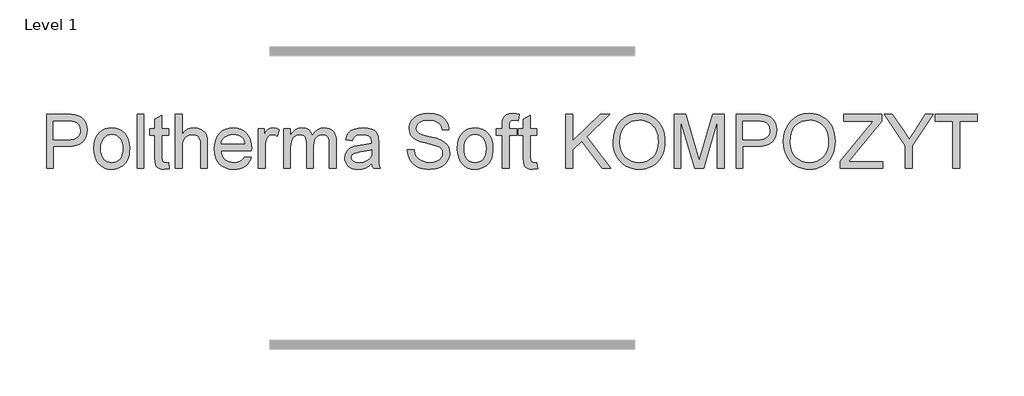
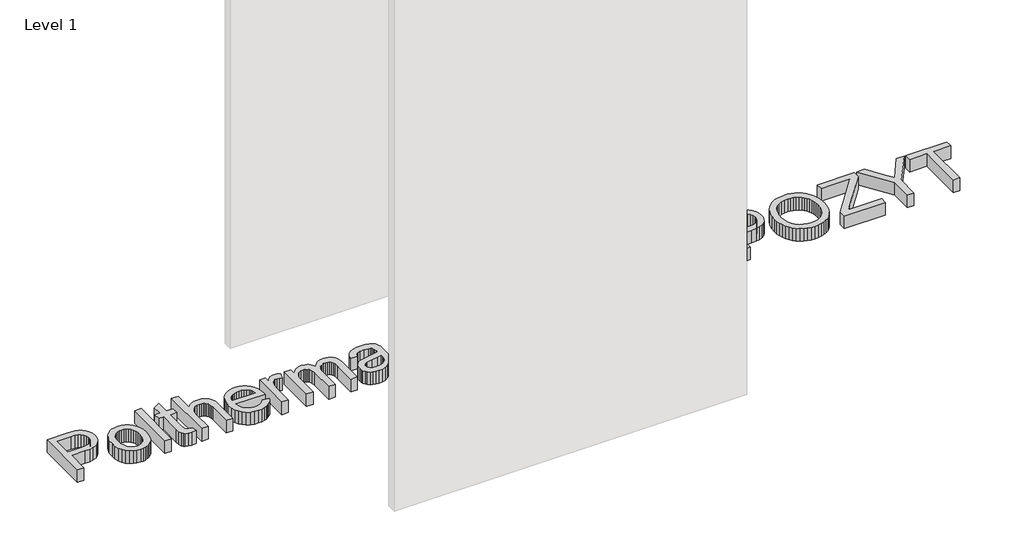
# One storey, part 7 of 27: 1 proxy.
"""IFC4 building model written with IfcOpenShell, lengths in millimetres."""

from ifc_helpers import new_model, si_unit, origin, origin_with_axes, place, context, project, spatial, polyline, outline, extrude, element, save

model = new_model("IFC4")

# Units and contexts
model_context = context("Model", 3, world=origin())
ifc_project = project(units=[si_unit("LENGTHUNIT", "METRE", prefix="MILLI")], contexts=[model_context])

# Site, building, storey
site = spatial("IfcSite", under=ifc_project)
building = spatial("IfcBuilding", under=site)
storey = spatial("IfcBuildingStorey", under=building, Name="Level 1", Elevation=0.0)

# Proxy
placement = place(None, origin())
element("IfcBuildingElementProxy", 1, Name="600mm Arial", ObjectType="600mm Arial", at=placement, inside=storey, context=model_context, shape_type="SweptSolid", body=[
    extrude(outline(polyline([(-14665.528887, -34476.1723864), (-14665.528887, -33885.4031556), (-14446.5865793, -33885.4031556), (-14395.6010024, -33886.8094056), (-14358.3173485, -33891.0281556), (-14318.9603774, -33901.5389729), (-14286.5625408, -33918.6483479), (-14260.4748004, -33943.131521), (-14240.0481177, -33975.7637325), (-14226.8510024, -34014.255319), (-14222.4519639, -34056.3166171), (-14225.4222163, -34092.5816412), (-14234.3329735, -34125.944021), (-14249.1842355, -34156.4037565), (-14269.9760024, -34183.9608479), (-14298.520173, -34206.803396), (-14336.6286466, -34223.1195017), (-14384.301423, -34232.9091652), (-14441.5385024, -34236.1723864), (-14591.6827331, -34236.1723864), (-14591.6827331, -34476.1723864), (-14665.528887, -34476.1723864)]), holes=[polyline([(-14591.6827331, -34162.3262325), (-14437.2115793, -34162.3262325), (-14401.6947524, -34160.631521), (-14371.7308101, -34155.5473864), (-14347.3197524, -34147.0738287), (-14328.4615793, -34135.2108479), (-14314.3900649, -34120.2739489), (-14304.3389831, -34102.5786364), (-14298.3083341, -34082.1249104), (-14296.2981177, -34058.912771), (-14301.0397043, -34025.739694), (-14315.2644639, -33997.7589248), (-14337.2055697, -33976.7012325), (-14365.0961947, -33964.2973864), (-14393.5817716, -33960.5113287), (-14438.9423485, -33959.2493094), (-14591.6827331, -33959.2493094), (-14591.6827331, -34162.3262325)])]), origin_with_axes(), (0.0, 0.0, 1.0), 150.0),
    extrude(outline(polyline([(-14148.6058101, -34259.2493094), (-14144.6124206, -34203.0624104), (-14132.6322524, -34154.645944), (-14112.6653052, -34113.9999104), (-14084.7115793, -34081.1243094), (-14056.5685504, -34060.1116892), (-14025.5048485, -34045.1026748), (-13991.5204735, -34036.0972662), (-13954.6154254, -34033.0954633), (-13913.8747403, -34036.7508118), (-13877.0373004, -34047.7168575), (-13844.1031057, -34065.9936003), (-13815.0721562, -34091.5810402), (-13791.3777452, -34123.6137926), (-13774.4531658, -34161.2264729), (-13764.2984182, -34204.4190811), (-13760.9135024, -34253.1916171), (-13762.4098966, -34292.7198623), (-13766.8990793, -34327.7949825), (-13774.3810504, -34358.4169777), (-13784.8558101, -34384.5858479), (-13798.192649, -34407.1895138), (-13814.2608581, -34427.115896), (-13833.0604375, -34444.3649945), (-13854.591387, -34458.9368094), (-13878.0153653, -34470.5158359), (-13902.4940312, -34478.786569), (-13928.0273846, -34483.7490089), (-13954.6154254, -34485.4031556), (-13995.9510625, -34481.7613287), (-14033.1310504, -34470.8358479), (-14066.1553894, -34452.6267133), (-14095.0240793, -34427.1339248), (-14118.4660865, -34394.7901748), (-14135.2103774, -34356.0281556), (-14145.2569519, -34310.8478671), (-14148.6058101, -34259.2493094)]), holes=[polyline([(-14074.7596562, -34259.1050787), (-14072.6232379, -34294.9238888), (-14066.2139831, -34325.9380114), (-14055.5318918, -34352.1474464), (-14040.5769639, -34373.552194), (-14022.3858581, -34390.1792974), (-14001.9952331, -34402.0557998), (-13979.4050889, -34409.1817013), (-13954.6154254, -34411.5570017), (-13929.9519639, -34409.1681796), (-13907.4519639, -34402.0017133), (-13887.1154254, -34390.0576027), (-13868.9423485, -34373.3358479), (-13853.9874206, -34351.7192614), (-13843.3053293, -34325.0906556), (-13836.8960745, -34293.4500306), (-13834.7596562, -34256.7973864), (-13836.9095961, -34222.1143936), (-13843.3594158, -34191.911569), (-13854.1091153, -34166.1889128), (-13869.1586947, -34144.9464248), (-13887.3993798, -34128.3193214), (-13907.7223966, -34116.442819), (-13930.1277452, -34109.3169176), (-13954.6154254, -34106.9416171), (-13979.4050889, -34109.3079032), (-14001.9952331, -34116.4067614), (-14022.3858581, -34128.2381916), (-14040.5769639, -34144.802194), (-14055.5318918, -34166.1438407), (-14066.2139831, -34192.3082037), (-14072.6232379, -34223.295283), (-14074.7596562, -34259.1050787)])]), origin_with_axes(), (0.0, 0.0, 1.0), 150.0),
    extrude(outline(polyline([(-13677.8365793, -34476.1723864), (-13677.8365793, -33885.4031556), (-13603.9904254, -33885.4031556), (-13603.9904254, -34476.1723864), (-13677.8365793, -34476.1723864)])), origin_with_axes(), (0.0, 0.0, 1.0), 150.0),
    extrude(outline(polyline([(-13336.2981177, -34414.5858479), (-13327.0673485, -34478.3358479), (-13382.3077331, -34485.4031556), (-13417.7524447, -34482.3382517), (-13444.1827331, -34473.1435402), (-13462.8606177, -34458.9728671), (-13475.0481177, -34440.9800787), (-13481.7548485, -34410.0786364), (-13483.9904254, -34357.1820017), (-13483.9904254, -34116.1723864), (-13539.3750408, -34116.1723864), (-13539.3750408, -34042.3262325), (-13483.9904254, -34042.3262325), (-13483.9904254, -33936.8935402), (-13410.1442716, -33893.4800787), (-13410.1442716, -34042.3262325), (-13336.2981177, -34042.3262325), (-13336.2981177, -34116.1723864), (-13410.1442716, -34116.1723864), (-13410.1442716, -34355.0185402), (-13406.2500408, -34393.0954633), (-13393.6298485, -34406.5810402), (-13382.9748004, -34410.3130114), (-13368.4615793, -34411.5570017), (-13336.2981177, -34414.5858479)])), origin_with_axes(), (0.0, 0.0, 1.0), 150.0),
    extrude(outline(polyline([(-13262.4519639, -34476.1723864), (-13262.4519639, -33885.4031556), (-13188.6058101, -33885.4031556), (-13188.6058101, -34102.614694), (-13161.481411, -34072.2000306), (-13131.0216754, -34050.475271), (-13097.2266033, -34037.4404152), (-13060.0961947, -34033.0954633), (-13015.4928293, -34037.8370498), (-12977.1635024, -34052.0618094), (-12946.9832139, -34074.6519537), (-12926.8269639, -34104.489694), (-12915.4687908, -34145.4872902), (-12911.6827331, -34201.5570017), (-12911.6827331, -34476.1723864), (-12985.528887, -34476.1723864), (-12985.528887, -34209.2012325), (-12986.9982379, -34184.2673383), (-12991.4062908, -34162.975271), (-12998.7530456, -34145.3250306), (-13009.0385024, -34131.3166171), (-13022.0192716, -34120.6525546), (-13037.4519639, -34113.0353671), (-13055.3365793, -34108.4650546), (-13075.6731177, -34106.9416171), (-13106.8810504, -34111.052194), (-13136.1779254, -34123.3839248), (-13160.4447524, -34142.7469056), (-13176.5625408, -34167.9512325), (-13185.5949927, -34201.4488287), (-13188.6058101, -34245.6916171), (-13188.6058101, -34476.1723864), (-13262.4519639, -34476.1723864)])), origin_with_axes(), (0.0, 0.0, 1.0), 150.0),
    extrude(outline(polyline([(-12506.3942716, -34346.9416171), (-12433.9904254, -34356.1723864), (-12445.0916875, -34385.1717854), (-12460.0781658, -34410.7276748), (-12478.9498605, -34432.8400546), (-12501.7067716, -34451.5089248), (-12528.114524, -34466.3376508), (-12557.9387427, -34476.9295979), (-12591.1794278, -34483.2847662), (-12627.8365793, -34485.4031556), (-12673.6568918, -34481.747807), (-12714.4832139, -34470.7817614), (-12750.3155456, -34452.5050186), (-12781.153887, -34426.9175787), (-12805.9525649, -34394.7315811), (-12823.6659062, -34356.6591652), (-12834.293911, -34312.7003311), (-12837.8365793, -34262.8550787), (-12834.2578533, -34211.3196219), (-12823.5216754, -34165.895944), (-12805.6280456, -34126.584045), (-12780.5769639, -34093.3839248), (-12749.8197524, -34067.0077229), (-12714.8077331, -34048.1675787), (-12675.5409062, -34036.8634921), (-12632.0192716, -34033.0954633), (-12589.8993798, -34036.8544777), (-12551.8089351, -34048.131521), (-12517.7479375, -34066.9265931), (-12487.716387, -34093.239694), (-12463.2016634, -34126.3676989), (-12445.6911466, -34165.6074825), (-12435.1848365, -34210.959045), (-12431.6827331, -34262.4223864), (-12432.1154254, -34282.3262325), (-12763.9904254, -34282.3262325), (-12759.7130817, -34311.7943815), (-12751.2079735, -34337.6026748), (-12738.4751009, -34359.7511123), (-12721.5144639, -34378.239694), (-12701.2635625, -34392.8160162), (-12678.6598966, -34403.2276748), (-12653.7034663, -34409.47467), (-12626.3942716, -34411.5570017), (-12587.091387, -34407.6988287), (-12553.9904254, -34396.1243094), (-12527.091387, -34376.1122902), (-12506.3942716, -34346.9416171)]), holes=[polyline([(-12763.9904254, -34208.4800787), (-12505.528887, -34208.4800787), (-12515.5168677, -34169.4656556), (-12524.1076129, -34154.1231075), (-12535.0961947, -34141.5570017), (-12555.2344158, -34126.412771), (-12578.1490793, -34115.5954633), (-12603.8401851, -34109.1050787), (-12632.3077331, -34106.9416171), (-12658.2737788, -34108.6678791), (-12682.0853774, -34113.8466652), (-12703.7425288, -34122.4779753), (-12723.2452331, -34134.5618094), (-12739.6109182, -34149.5392734), (-12751.857012, -34166.8514729), (-12759.9835144, -34186.498408), (-12763.9904254, -34208.4800787)])]), origin_with_axes(), (0.0, 0.0, 1.0), 150.0),
    extrude(outline(polyline([(-12357.8365793, -34476.1723864), (-12357.8365793, -34042.3262325), (-12293.2211947, -34042.3262325), (-12293.2211947, -34106.5089248), (-12269.3510024, -34069.2973864), (-12247.3558101, -34047.3743094), (-12225.2885024, -34036.6651748), (-12201.2019639, -34033.0954633), (-12164.4231177, -34038.7925787), (-12127.0673485, -34055.8839248), (-12151.7308101, -34122.0858479), (-12177.6923485, -34110.7276748), (-12203.653887, -34106.9416171), (-12225.7031658, -34110.583444), (-12245.4086947, -34121.5089248), (-12261.3281658, -34138.8887325), (-12272.0192716, -34161.8935402), (-12280.997637, -34203.1435402), (-12283.9904254, -34248.1435402), (-12283.9904254, -34476.1723864), (-12357.8365793, -34476.1723864)])), origin_with_axes(), (0.0, 0.0, 1.0), 150.0),
    extrude(outline(polyline([(-12080.9135024, -34476.1723864), (-12080.9135024, -34042.3262325), (-12007.0673485, -34042.3262325), (-12007.0673485, -34113.7204633), (-11984.8558101, -34080.9259921), (-11956.2981177, -34055.2348864), (-11922.3678293, -34038.630319), (-11884.0385024, -34033.0954633), (-11842.9687908, -34038.7384921), (-11825.4898245, -34045.7922782), (-11810.0481177, -34055.6675787), (-11785.4567716, -34082.7649344), (-11769.3750408, -34118.912771), (-11742.4579735, -34081.3676989), (-11711.7548485, -34054.5497902), (-11677.2656658, -34038.459045), (-11638.9904254, -34033.0954633), (-11609.427625, -34035.326533), (-11583.4796081, -34042.0197421), (-11561.146375, -34053.1750907), (-11542.4279254, -34068.7925787), (-11527.63075, -34089.0524945), (-11517.0613389, -34114.1351267), (-11510.7196923, -34144.0404753), (-11508.6058101, -34178.7685402), (-11508.6058101, -34476.1723864), (-11582.4519639, -34476.1723864), (-11582.4519639, -34210.4993094), (-11584.1647043, -34173.6663767), (-11589.3029254, -34148.8406556), (-11598.9303293, -34131.8394537), (-11614.1106177, -34118.4800787), (-11633.6358581, -34109.8262325), (-11656.2981177, -34106.9416171), (-11677.2251009, -34108.7895739), (-11696.3041274, -34114.333444), (-11713.5351971, -34123.5732277), (-11728.9183101, -34136.5089248), (-11741.5700528, -34153.5191412), (-11750.607012, -34174.9824825), (-11756.0291875, -34200.8989489), (-11757.8365793, -34231.2685402), (-11757.8365793, -34476.1723864), (-11831.6827331, -34476.1723864), (-11831.6827331, -34202.2781556), (-11835.9555697, -34160.5233479), (-11848.7740793, -34130.739694), (-11858.6854375, -34120.3280354), (-11871.3281658, -34112.8911364), (-11886.7022644, -34108.4289969), (-11904.8077331, -34106.9416171), (-11933.2572524, -34110.9079633), (-11959.4711947, -34122.8070017), (-11981.1058101, -34142.350271), (-11995.8173485, -34169.2493094), (-12004.2548485, -34206.569021), (-12007.0673485, -34257.3743094), (-12007.0673485, -34476.1723864), (-12080.9135024, -34476.1723864)])), origin_with_axes(), (0.0, 0.0, 1.0), 150.0),
    extrude(outline(polyline([(-11120.9135024, -34420.787771), (-11156.1959543, -34451.0401748), (-11192.5240793, -34470.8358479), (-11230.7272043, -34481.7613287), (-11271.6346562, -34485.4031556), (-11304.5147644, -34483.2126508), (-11333.3473966, -34476.6411364), (-11358.1325528, -34465.6886123), (-11378.8702331, -34450.3550787), (-11395.2449327, -34431.6140931), (-11406.9411466, -34410.4392133), (-11413.958875, -34386.8304392), (-11416.2981177, -34360.787771), (-11412.7644639, -34330.1747902), (-11402.1635024, -34302.3743094), (-11385.8113389, -34278.5762325), (-11365.0240793, -34259.9704633), (-11340.5949927, -34245.9079633), (-11313.3173485, -34235.739694), (-11249.4231177, -34224.6339248), (-11173.9183101, -34212.9512325), (-11121.3461947, -34199.2493094), (-11120.9135024, -34182.8070017), (-11125.997637, -34149.850271), (-11132.3528052, -34137.6447421), (-11141.2500408, -34128.287771), (-11156.6286466, -34118.9488287), (-11175.3606177, -34112.2781556), (-11222.8846562, -34106.9416171), (-11266.8750408, -34110.4932998), (-11297.5961947, -34121.1483479), (-11318.5457139, -34140.8538767), (-11333.2211947, -34171.5570017), (-11407.0673485, -34162.3262325), (-11394.2488389, -34121.9416171), (-11375.1202331, -34090.2108479), (-11347.8966754, -34065.944021), (-11310.7933101, -34047.9512325), (-11265.4147043, -34036.8094056), (-11213.3654254, -34033.0954633), (-11163.4435504, -34036.3767133), (-11123.8702331, -34046.2204633), (-11094.0324927, -34061.022146), (-11073.3173485, -34079.177194), (-11059.5793677, -34101.6231075), (-11050.6731177, -34129.2973864), (-11047.0673485, -34193.912771), (-11047.0673485, -34285.787771), (-11043.3173485, -34414.0810402), (-11037.7644639, -34445.7937806), (-11028.6058101, -34476.1723864), (-11102.4519639, -34476.1723864), (-11114.278887, -34450.4993094), (-11120.9135024, -34420.787771)]), holes=[polyline([(-11120.9135024, -34273.0954633), (-11170.528887, -34285.3911364), (-11240.0481177, -34295.739694), (-11303.5817716, -34307.7108479), (-11320.1142235, -34315.895944), (-11332.3558101, -34327.1820017), (-11339.9279254, -34340.7036364), (-11342.4519639, -34355.5954633), (-11336.9531658, -34377.5545979), (-11320.4567716, -34395.5473864), (-11293.3233581, -34407.5545979), (-11255.9135024, -34411.5570017), (-11216.2500408, -34407.1399344), (-11181.2019639, -34393.8887325), (-11152.7885024, -34374.3634921), (-11133.028887, -34351.1243094), (-11124.2668677, -34327.1820017), (-11121.3461947, -34294.0089248), (-11120.9135024, -34273.0954633)])]), origin_with_axes(), (0.0, 0.0, 1.0), 150.0),
    extrude(outline(polyline([(-10733.2211947, -34273.0954633), (-10659.3750408, -34273.0954633), (-10650.9014831, -34314.0750306), (-10635.5769639, -34347.0137325), (-10611.6707139, -34373.1555594), (-10577.4519639, -34393.7445017), (-10535.6250408, -34407.1038767), (-10488.8942716, -34411.5570017), (-10447.7524447, -34408.1856075), (-10411.7308101, -34398.0714248), (-10382.5421081, -34382.0618094), (-10361.8990793, -34361.0041171), (-10349.6214351, -34336.8274344), (-10345.528887, -34311.4608479), (-10348.5937908, -34286.7432998), (-10357.7885024, -34265.3791171), (-10376.466387, -34247.1519537), (-10407.9808101, -34231.8454633), (-10515.5048485, -34203.6483479), (-10586.0877812, -34184.9884921), (-10631.2500408, -34167.2300787), (-10668.0108581, -34142.3863287), (-10694.0625408, -34112.2781556), (-10709.5853774, -34077.5545979), (-10714.7596562, -34038.864694), (-10713.1595961, -34016.8740089), (-10708.3594158, -33995.6134921), (-10700.3591153, -33975.0831436), (-10689.1586947, -33955.2829633), (-10674.8843557, -33937.0197421), (-10657.6623004, -33921.100271), (-10637.4925288, -33907.5245498), (-10614.3750408, -33896.2925787), (-10562.4159062, -33881.2024344), (-10504.903887, -33876.1723864), (-10442.5961947, -33881.4368094), (-10388.0769639, -33897.2300787), (-10364.2248004, -33908.9939008), (-10343.2933101, -33923.2276748), (-10325.2824927, -33939.9314008), (-10310.1923485, -33959.1050787), (-10298.1400649, -33980.1898142), (-10289.2428293, -34002.6267133), (-10283.5006418, -34026.4157758), (-10280.9135024, -34051.5570017), (-10354.7596562, -34051.5570017), (-10359.6995601, -34027.9932998), (-10368.3173485, -34007.4945017), (-10380.6130216, -33990.0606075), (-10396.5865793, -33975.6916171), (-10416.5354976, -33964.459646), (-10440.7572524, -33956.4368094), (-10469.2518437, -33951.6231075), (-10502.0192716, -33950.0185402), (-10535.8323726, -33951.6050787), (-10564.7235985, -33956.364694), (-10588.6929495, -33964.2973864), (-10607.7404254, -33975.4031556), (-10622.2536466, -33988.7535162), (-10632.6202331, -34003.4199825), (-10638.8401851, -34019.4025546), (-10640.9135024, -34036.7012325), (-10635.0360985, -34065.0786364), (-10617.403887, -34087.9031556), (-10601.2139831, -34098.053396), (-10575.7211947, -34108.3118094), (-10496.8269639, -34129.1531556), (-10415.4086947, -34148.9488287), (-10366.153887, -34166.2204633), (-10324.0565312, -34193.0113287), (-10307.7809903, -34208.7595258), (-10294.6875408, -34226.0762325), (-10284.6229375, -34244.8713046), (-10277.4339351, -34265.0545979), (-10271.6827331, -34309.5858479), (-10273.3368798, -34332.685307), (-10278.2993197, -34355.1086844), (-10286.5700528, -34376.8559801), (-10298.1490793, -34397.927194), (-10312.8335745, -34417.506521), (-10330.4207139, -34434.7781556), (-10350.9104976, -34449.7420979), (-10374.3029254, -34462.3983479), (-10399.9174086, -34472.4629513), (-10427.0733581, -34479.6519537), (-10486.0096562, -34485.4031556), (-10523.7845961, -34483.8526748), (-10558.3594158, -34479.2012325), (-10589.7341153, -34471.4488287), (-10617.9086947, -34460.5954633), (-10643.0544278, -34446.6231075), (-10665.3425889, -34429.5137325), (-10684.7731778, -34409.2673383), (-10701.3461947, -34385.8839248), (-10714.6965552, -34360.1207037), (-10724.4591754, -34332.7348864), (-10730.6340552, -34303.7264729), (-10733.2211947, -34273.0954633)])), origin_with_axes(), (0.0, 0.0, 1.0), 150.0),
    extrude(outline(polyline([(-10188.6058101, -34259.2493094), (-10184.6124206, -34203.0624104), (-10172.6322524, -34154.645944), (-10152.6653052, -34113.9999104), (-10124.7115793, -34081.1243094), (-10096.5685504, -34060.1116892), (-10065.5048485, -34045.1026748), (-10031.5204735, -34036.0972662), (-9994.6154254, -34033.0954633), (-9953.8747403, -34036.7508118), (-9917.0373004, -34047.7168575), (-9884.1031057, -34065.9936003), (-9855.0721562, -34091.5810402), (-9831.3777452, -34123.6137926), (-9814.4531658, -34161.2264729), (-9804.2984182, -34204.4190811), (-9800.9135024, -34253.1916171), (-9802.4098966, -34292.7198623), (-9806.8990793, -34327.7949825), (-9814.3810504, -34358.4169777), (-9824.8558101, -34384.5858479), (-9838.192649, -34407.1895138), (-9854.2608581, -34427.115896), (-9873.0604375, -34444.3649945), (-9894.591387, -34458.9368094), (-9918.0153653, -34470.5158359), (-9942.4940312, -34478.786569), (-9968.0273846, -34483.7490089), (-9994.6154254, -34485.4031556), (-10035.9510625, -34481.7613287), (-10073.1310504, -34470.8358479), (-10106.1553894, -34452.6267133), (-10135.0240793, -34427.1339248), (-10158.4660865, -34394.7901748), (-10175.2103774, -34356.0281556), (-10185.2569519, -34310.8478671), (-10188.6058101, -34259.2493094)]), holes=[polyline([(-10114.7596562, -34259.1050787), (-10112.6232379, -34294.9238888), (-10106.2139831, -34325.9380114), (-10095.5318918, -34352.1474464), (-10080.5769639, -34373.552194), (-10062.3858581, -34390.1792974), (-10041.9952331, -34402.0557998), (-10019.4050889, -34409.1817013), (-9994.6154254, -34411.5570017), (-9969.9519639, -34409.1681796), (-9947.4519639, -34402.0017133), (-9927.1154254, -34390.0576027), (-9908.9423485, -34373.3358479), (-9893.9874206, -34351.7192614), (-9883.3053293, -34325.0906556), (-9876.8960745, -34293.4500306), (-9874.7596562, -34256.7973864), (-9876.9095961, -34222.1143936), (-9883.3594158, -34191.911569), (-9894.1091153, -34166.1889128), (-9909.1586947, -34144.9464248), (-9927.3993798, -34128.3193214), (-9947.7223966, -34116.442819), (-9970.1277452, -34109.3169176), (-9994.6154254, -34106.9416171), (-10019.4050889, -34109.3079032), (-10041.9952331, -34116.4067614), (-10062.3858581, -34128.2381916), (-10080.5769639, -34144.802194), (-10095.5318918, -34166.1438407), (-10106.2139831, -34192.3082037), (-10112.6232379, -34223.295283), (-10114.7596562, -34259.1050787)])]), origin_with_axes(), (0.0, 0.0, 1.0), 150.0),
    extrude(outline(polyline([(-9699.3750408, -34476.1723864), (-9699.3750408, -34116.1723864), (-9763.9904254, -34116.1723864), (-9763.9904254, -34042.3262325), (-9699.3750408, -34042.3262325), (-9699.3750408, -33998.6243094), (-9697.4279254, -33962.458444), (-9691.5865793, -33937.037771), (-9676.7308101, -33912.4824825), (-9653.7981177, -33893.0473864), (-9621.7067716, -33880.3911364), (-9579.3750408, -33876.1723864), (-9547.3197524, -33878.1916171), (-9512.0192716, -33884.2493094), (-9522.8365793, -33953.4800787), (-9565.3846562, -33950.0185402), (-9593.4555697, -33953.083444), (-9611.8990793, -33962.2781556), (-9622.1214351, -33979.8382517), (-9625.528887, -34007.9993094), (-9625.528887, -34042.3262325), (-9542.4519639, -34042.3262325), (-9542.4519639, -34116.1723864), (-9625.528887, -34116.1723864), (-9625.528887, -34476.1723864), (-9699.3750408, -34476.1723864)])), origin_with_axes(), (0.0, 0.0, 1.0), 150.0),
    extrude(outline(polyline([(-9320.9135024, -34414.5858479), (-9311.6827331, -34478.3358479), (-9366.9231177, -34485.4031556), (-9402.3678293, -34482.3382517), (-9428.7981177, -34473.1435402), (-9447.4760024, -34458.9728671), (-9459.6635024, -34440.9800787), (-9466.3702331, -34410.0786364), (-9468.6058101, -34357.1820017), (-9468.6058101, -34116.1723864), (-9523.9904254, -34116.1723864), (-9523.9904254, -34042.3262325), (-9468.6058101, -34042.3262325), (-9468.6058101, -33936.8935402), (-9394.7596562, -33893.4800787), (-9394.7596562, -34042.3262325), (-9320.9135024, -34042.3262325), (-9320.9135024, -34116.1723864), (-9394.7596562, -34116.1723864), (-9394.7596562, -34355.0185402), (-9390.8654254, -34393.0954633), (-9378.2452331, -34406.5810402), (-9367.5901851, -34410.3130114), (-9353.0769639, -34411.5570017), (-9320.9135024, -34414.5858479)])), origin_with_axes(), (0.0, 0.0, 1.0), 150.0),
    extrude(outline(polyline([(-9007.0673485, -34476.1723864), (-9007.0673485, -33885.4031556), (-8933.2211947, -33885.4031556), (-8933.2211947, -34174.5858479), (-8630.3365793, -33885.4031556), (-8527.0673485, -33885.4031556), (-8781.3461947, -34128.287771), (-8517.8365793, -34476.1723864), (-8608.1250408, -34476.1723864), (-8833.7019639, -34178.1916171), (-8933.2211947, -34273.0954633), (-8933.2211947, -34476.1723864), (-9007.0673485, -34476.1723864)])), origin_with_axes(), (0.0, 0.0, 1.0), 150.0),
    extrude(outline(polyline([(-8490.1442716, -34188.5762325), (-8485.2223966, -34119.2823623), (-8470.4567716, -34057.9392133), (-8445.8473966, -34004.5467854), (-8411.3942716, -33959.1050787), (-8369.1616995, -33922.8220258), (-8321.2139831, -33896.9055594), (-8267.5511226, -33881.3556796), (-8208.1731177, -33876.1723864), (-8168.4285264, -33878.6062806), (-8130.685137, -33885.9079633), (-8094.9429495, -33898.0774344), (-8061.2019639, -33915.114694), (-8030.4086947, -33936.50592), (-8003.5096562, -33961.7372902), (-7980.5048485, -33990.8088046), (-7961.3942716, -34023.7204633), (-7946.3762427, -34059.724069), (-7935.6490793, -34098.0714248), (-7929.2127812, -34138.7625306), (-7927.0673485, -34181.7973864), (-7929.3254615, -34225.4001508), (-7936.0998004, -34266.6411364), (-7947.3903653, -34305.5203431), (-7963.1971562, -34342.037771), (-7983.1460745, -34375.2288767), (-8006.8630216, -34404.1291171), (-8034.3479976, -34428.7384921), (-8065.6010024, -34449.0570017), (-8099.3915673, -34464.958444), (-8134.4892235, -34476.3166171), (-8170.8939711, -34483.131521), (-8208.6058101, -34485.4031556), (-8249.044512, -34482.8926388), (-8287.2836947, -34475.3610883), (-8323.3233581, -34462.8085041), (-8357.1635024, -34445.2348864), (-8387.9207139, -34423.3208239), (-8414.7115793, -34397.7469056), (-8437.5360985, -34368.5131315), (-8456.3942716, -34335.6195017), (-8471.1598966, -34300.3866291), (-8481.7067716, -34264.1351267), (-8488.0348966, -34226.8649945), (-8490.1442716, -34188.5762325)]), holes=[polyline([(-8416.2981177, -34189.2973864), (-8412.6067115, -34238.2547181), (-8401.5324927, -34281.7132517), (-8383.0754615, -34319.6729873), (-8357.2356177, -34352.1339248), (-8325.8248605, -34378.131521), (-8290.6550889, -34396.7012325), (-8251.7263028, -34407.8430594), (-8209.0385024, -34411.5570017), (-8165.6205336, -34407.8070017), (-8126.232012, -34396.5570017), (-8090.8729375, -34377.8070017), (-8059.5433101, -34351.5570017), (-8033.8927692, -34318.4109681), (-8015.5709543, -34278.9728671), (-8004.5778653, -34233.2426989), (-8000.9135024, -34181.2204633), (-8002.482012, -34147.4253912), (-8007.1875408, -34115.8478671), (-8015.0300889, -34086.4878912), (-8026.0096562, -34059.3454633), (-8040.004548, -34034.7766532), (-8056.8930697, -34013.1375306), (-8076.6752211, -33994.4280955), (-8099.3510024, -33978.6483479), (-8124.2172884, -33966.122807), (-8150.5709543, -33957.1759921), (-8178.412, -33951.8079032), (-8207.7404254, -33950.0185402), (-8248.9453533, -33953.466557), (-8287.1755216, -33963.8106075), (-8322.4309302, -33981.0506916), (-8354.7115793, -34005.1868094), (-8381.6556899, -34037.3818214), (-8400.9014831, -34078.7985883), (-8412.4489591, -34129.4371099), (-8416.2981177, -34189.2973864)])]), origin_with_axes(), (0.0, 0.0, 1.0), 150.0),
    extrude(outline(polyline([(-7825.528887, -34476.1723864), (-7825.528887, -33885.4031556), (-7698.4615793, -33885.4031556), (-7577.5961947, -34301.7973864), (-7553.2211947, -34388.7685402), (-7526.8269639, -34294.5858479), (-7407.9808101, -33885.4031556), (-7280.9135024, -33885.4031556), (-7280.9135024, -34476.1723864), (-7354.7596562, -34476.1723864), (-7354.7596562, -33959.2493094), (-7503.1731177, -34476.1723864), (-7603.2692716, -34476.1723864), (-7751.6827331, -33959.2493094), (-7751.6827331, -34476.1723864), (-7825.528887, -34476.1723864)])), origin_with_axes(), (0.0, 0.0, 1.0), 150.0),
    extrude(outline(polyline([(-7151.6827331, -34476.1723864), (-7151.6827331, -33885.4031556), (-6932.7404254, -33885.4031556), (-6881.7548485, -33886.8094056), (-6844.4711947, -33891.0281556), (-6805.1142235, -33901.5389729), (-6772.716387, -33918.6483479), (-6746.6286466, -33943.131521), (-6726.2019639, -33975.7637325), (-6713.0048485, -34014.255319), (-6708.6058101, -34056.3166171), (-6711.5760625, -34092.5816412), (-6720.4868197, -34125.944021), (-6735.3380817, -34156.4037565), (-6756.1298485, -34183.9608479), (-6784.6740192, -34206.803396), (-6822.7824927, -34223.1195017), (-6870.4552692, -34232.9091652), (-6927.6923485, -34236.1723864), (-7077.8365793, -34236.1723864), (-7077.8365793, -34476.1723864), (-7151.6827331, -34476.1723864)]), holes=[polyline([(-7077.8365793, -34162.3262325), (-6923.3654254, -34162.3262325), (-6887.8485985, -34160.631521), (-6857.8846562, -34155.5473864), (-6833.4735985, -34147.0738287), (-6814.6154254, -34135.2108479), (-6800.543911, -34120.2739489), (-6790.4928293, -34102.5786364), (-6784.4621802, -34082.1249104), (-6782.4519639, -34058.912771), (-6787.1935504, -34025.739694), (-6801.4183101, -33997.7589248), (-6823.3594158, -33976.7012325), (-6851.2500408, -33964.2973864), (-6879.7356177, -33960.5113287), (-6925.0961947, -33959.2493094), (-7077.8365793, -33959.2493094), (-7077.8365793, -34162.3262325)])]), origin_with_axes(), (0.0, 0.0, 1.0), 150.0),
    extrude(outline(polyline([(-6634.7596562, -34188.5762325), (-6629.8377812, -34119.2823623), (-6615.0721562, -34057.9392133), (-6590.4627812, -34004.5467854), (-6556.0096562, -33959.1050787), (-6513.7770841, -33922.8220258), (-6465.8293677, -33896.9055594), (-6412.1665072, -33881.3556796), (-6352.7885024, -33876.1723864), (-6313.043911, -33878.6062806), (-6275.3005216, -33885.9079633), (-6239.5583341, -33898.0774344), (-6205.8173485, -33915.114694), (-6175.0240793, -33936.50592), (-6148.1250408, -33961.7372902), (-6125.1202331, -33990.8088046), (-6106.0096562, -34023.7204633), (-6090.9916274, -34059.724069), (-6080.2644639, -34098.0714248), (-6073.8281658, -34138.7625306), (-6071.6827331, -34181.7973864), (-6073.9408461, -34225.4001508), (-6080.7151851, -34266.6411364), (-6092.00575, -34305.5203431), (-6107.8125408, -34342.037771), (-6127.7614591, -34375.2288767), (-6151.4784062, -34404.1291171), (-6178.9633822, -34428.7384921), (-6210.216387, -34449.0570017), (-6244.0069519, -34464.958444), (-6279.1046081, -34476.3166171), (-6315.5093557, -34483.131521), (-6353.2211947, -34485.4031556), (-6393.6598966, -34482.8926388), (-6431.8990793, -34475.3610883), (-6467.9387427, -34462.8085041), (-6501.778887, -34445.2348864), (-6532.5360985, -34423.3208239), (-6559.3269639, -34397.7469056), (-6582.1514831, -34368.5131315), (-6601.0096562, -34335.6195017), (-6615.7752812, -34300.3866291), (-6626.3221562, -34264.1351267), (-6632.6502812, -34226.8649945), (-6634.7596562, -34188.5762325)]), holes=[polyline([(-6560.9135024, -34189.2973864), (-6557.2220961, -34238.2547181), (-6546.1478774, -34281.7132517), (-6527.6908461, -34319.6729873), (-6501.8510024, -34352.1339248), (-6470.4402452, -34378.131521), (-6435.2704735, -34396.7012325), (-6396.3416875, -34407.8430594), (-6353.653887, -34411.5570017), (-6310.2359182, -34407.8070017), (-6270.8473966, -34396.5570017), (-6235.4883221, -34377.8070017), (-6204.1586947, -34351.5570017), (-6178.5081538, -34318.4109681), (-6160.1863389, -34278.9728671), (-6149.19325, -34233.2426989), (-6145.528887, -34181.2204633), (-6147.0973966, -34147.4253912), (-6151.8029254, -34115.8478671), (-6159.6454735, -34086.4878912), (-6170.6250408, -34059.3454633), (-6184.6199327, -34034.7766532), (-6201.5084543, -34013.1375306), (-6221.2906057, -33994.4280955), (-6243.966387, -33978.6483479), (-6268.832673, -33966.122807), (-6295.1863389, -33957.1759921), (-6323.0273846, -33951.8079032), (-6352.3558101, -33950.0185402), (-6393.5607379, -33953.466557), (-6431.7909062, -33963.8106075), (-6467.0463149, -33981.0506916), (-6499.3269639, -34005.1868094), (-6526.2710745, -34037.3818214), (-6545.5168677, -34078.7985883), (-6557.0643437, -34129.4371099), (-6560.9135024, -34189.2973864)])]), origin_with_axes(), (0.0, 0.0, 1.0), 150.0),
    extrude(outline(polyline([(-6016.2981177, -34476.1723864), (-6016.2981177, -34399.5858479), (-5714.1346562, -34029.6339248), (-5656.7308101, -33959.2493094), (-5979.3750408, -33959.2493094), (-5979.3750408, -33885.4031556), (-5563.9904254, -33885.4031556), (-5563.9904254, -33959.2493094), (-5894.7115793, -34364.1050787), (-5925.8654254, -34402.3262325), (-5554.7596562, -34402.3262325), (-5554.7596562, -34476.1723864), (-6016.2981177, -34476.1723864)])), origin_with_axes(), (0.0, 0.0, 1.0), 150.0),
    extrude(outline(polyline([(-5305.528887, -34476.1723864), (-5305.528887, -34225.9320017), (-5536.2981177, -33885.4031556), (-5449.1827331, -33885.4031556), (-5326.0096562, -34067.2781556), (-5262.9808101, -34160.0185402), (-5199.8077331, -34060.6435402), (-5088.028887, -33885.4031556), (-5000.9135024, -33885.4031556), (-5231.6827331, -34225.9320017), (-5231.6827331, -34476.1723864), (-5305.528887, -34476.1723864)])), origin_with_axes(), (0.0, 0.0, 1.0), 150.0),
    extrude(outline(polyline([(-4788.6058101, -34476.1723864), (-4788.6058101, -33959.2493094), (-4982.4519639, -33959.2493094), (-4982.4519639, -33885.4031556), (-4520.9135024, -33885.4031556), (-4520.9135024, -33959.2493094), (-4714.7596562, -33959.2493094), (-4714.7596562, -34476.1723864), (-4788.6058101, -34476.1723864)])), origin_with_axes(), (0.0, 0.0, 1.0), 150.0),
])

save(model, "model.ifc")
